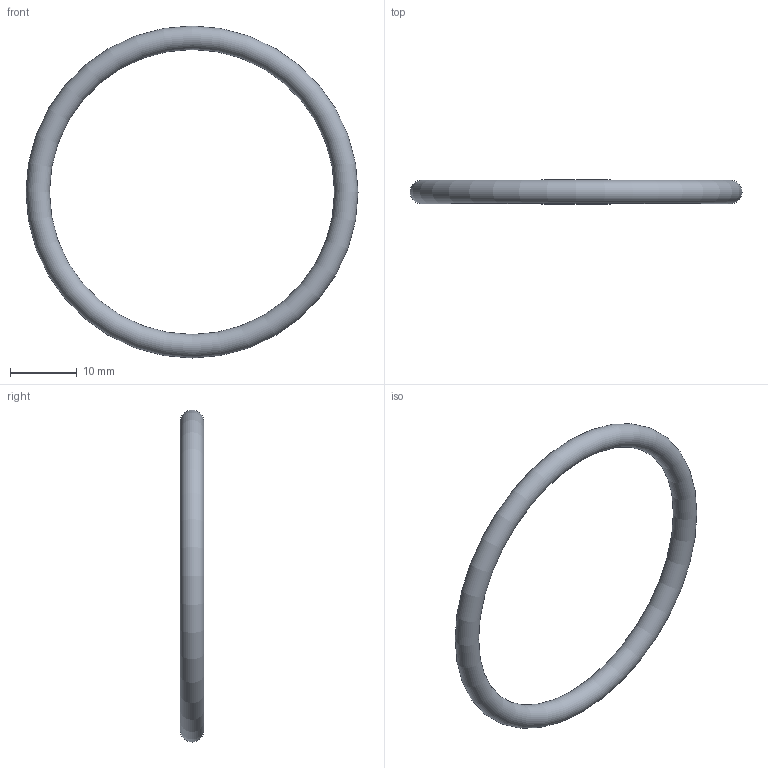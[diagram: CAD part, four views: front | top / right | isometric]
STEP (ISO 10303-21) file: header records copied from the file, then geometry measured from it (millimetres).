
FILE_DESCRIPTION( ( 'STEP AP203' ), '1' );
FILE_NAME( 'C:/Temp/Ganter_Step_05_03_2020/data/3_5/or638/O-Ring OR638-42.86-3.53-70.stp', '2020-03-12T13:44:32', ( 'License CC BY-ND 4.0' ), ( 'CADENAS' ), ' ', 'PARTsolutions', ' ' );
FILE_SCHEMA( ( 'CONFIG_CONTROL_DESIGN' ) );
Length unit declared in the file: millimetre
Products named in the file (1): _O-Ring OR638-42.86-3.53-70
Bounding box: 49.92 x 3.53 x 49.92 mm (x, y, z)
Volume: 1426.3 mm3; surface area: 1616.2 mm2
Topology: 1 solids, 1 shells, 1 faces, 2 edges, 1 vertices
Faces by surface type: torus 1
Entity records: 62 total; most frequent: CC_DESIGN_PERSON_AND_ORGANIZATION_ASSIGNMENT 5, PERSON_AND_ORGANIZATION_ROLE 4, DIRECTION 4, CARTESIAN_POINT 3, DATE_TIME_ROLE 2, CC_DESIGN_DATE_AND_TIME_ASSIGNMENT 2, AXIS2_PLACEMENT_3D 2, DIMENSIONAL_EXPONENTS 2
